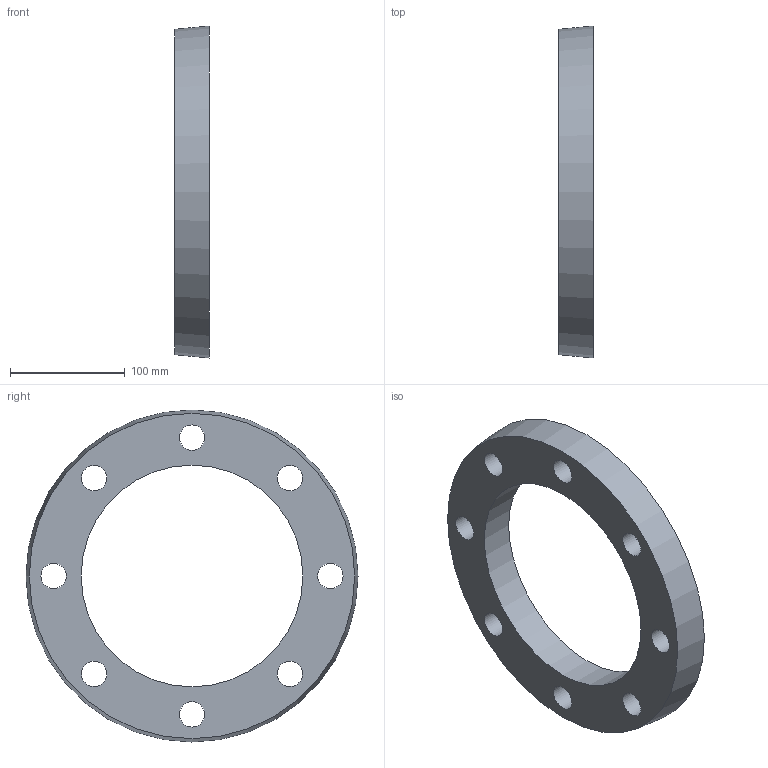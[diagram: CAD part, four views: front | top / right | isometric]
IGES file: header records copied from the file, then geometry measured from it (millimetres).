
Global section: file name: 059000160.ipt; native system: Autodesk Inventor 2015; preprocessor: unknown; author: KIM; date: 20171207.165921; units: millimetre
Bounding box: 30 x 289 x 289 mm (x, y, z)
Volume: 959930.5 mm3; surface area: 125871.6 mm2
Topology: 1 solids, 1 shells, 12 faces, 32 edges, 22 vertices
Faces by surface type: revolution 9, plane 2, cone 1
